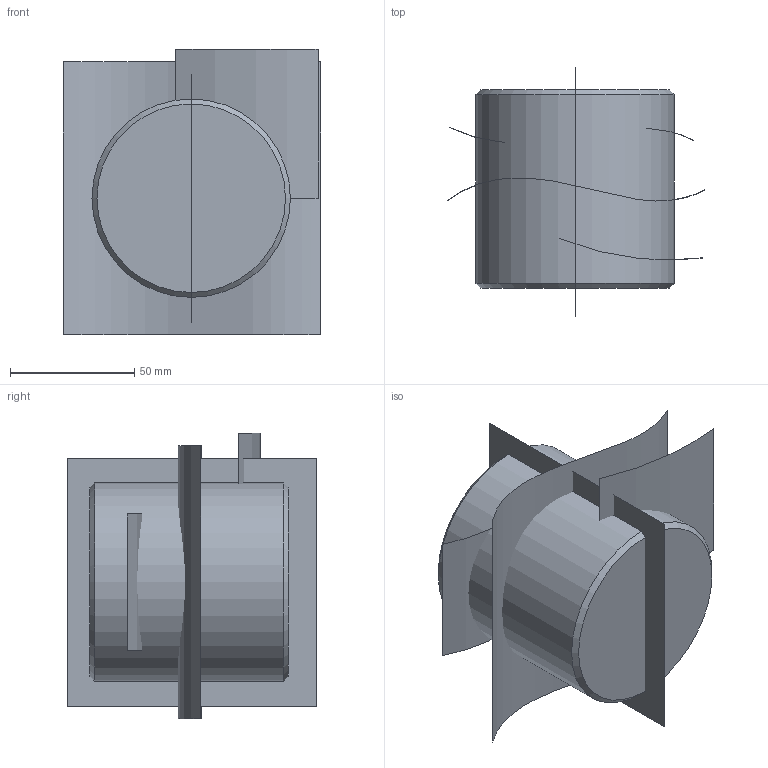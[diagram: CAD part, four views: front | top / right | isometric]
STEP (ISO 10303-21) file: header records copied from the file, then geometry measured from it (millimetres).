
FILE_DESCRIPTION (( 'STEP AP203' ), '1' );
FILE_NAME ('24.1.STEP', '2025-11-02T13:16:54', ( '' ), ( '' ), 'SwSTEP 2.0', 'SolidWorks 2025', '' );
FILE_SCHEMA (( 'CONFIG_CONTROL_DESIGN' ));
Length unit declared in the file: millimetre
Products named in the file (1): 24.1
Bounding box: 103.62 x 100 x 115 mm (x, y, z)
Surface area: 60401.4 mm2 (no closed solid volume)
Topology: 0 solids, 5 shells, 12 faces, 30 edges, 24 vertices
Faces by surface type: cone 4, plane 3, bspline 3, cylinder 2
Entity records: 457 total; most frequent: CARTESIAN_POINT 110, DIRECTION 52, ORIENTED_EDGE 44, EDGE_CURVE 30, VERTEX_POINT 24, AXIS2_PLACEMENT_3D 18, VECTOR 16, LINE 16
